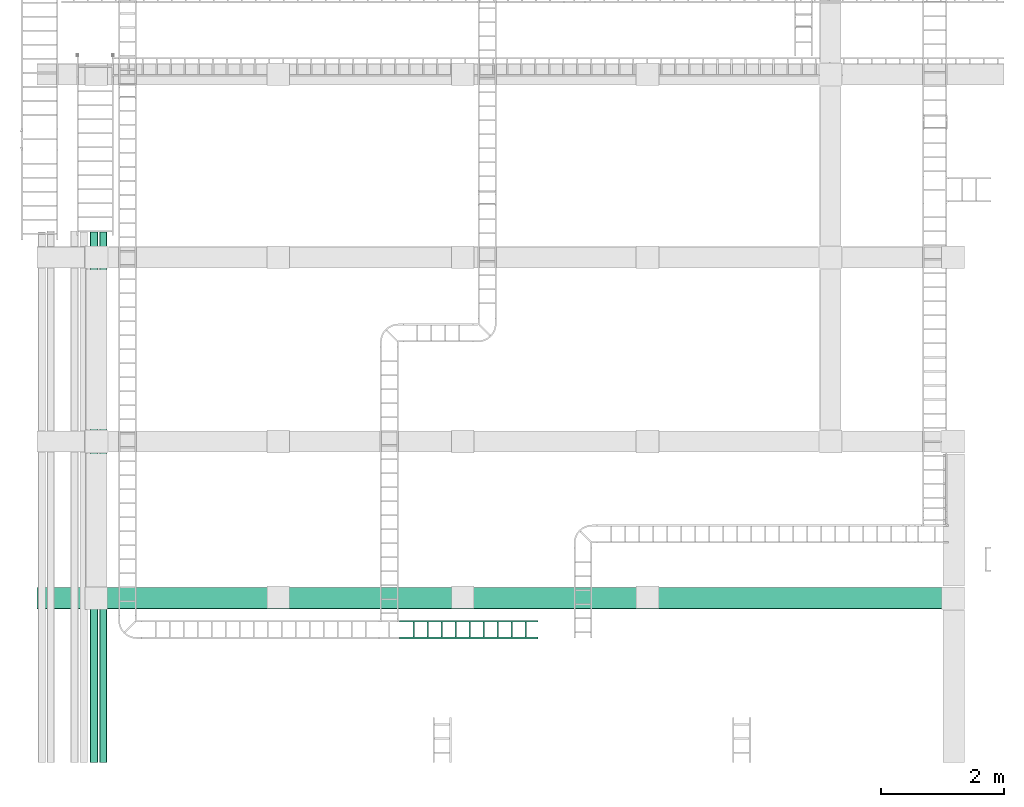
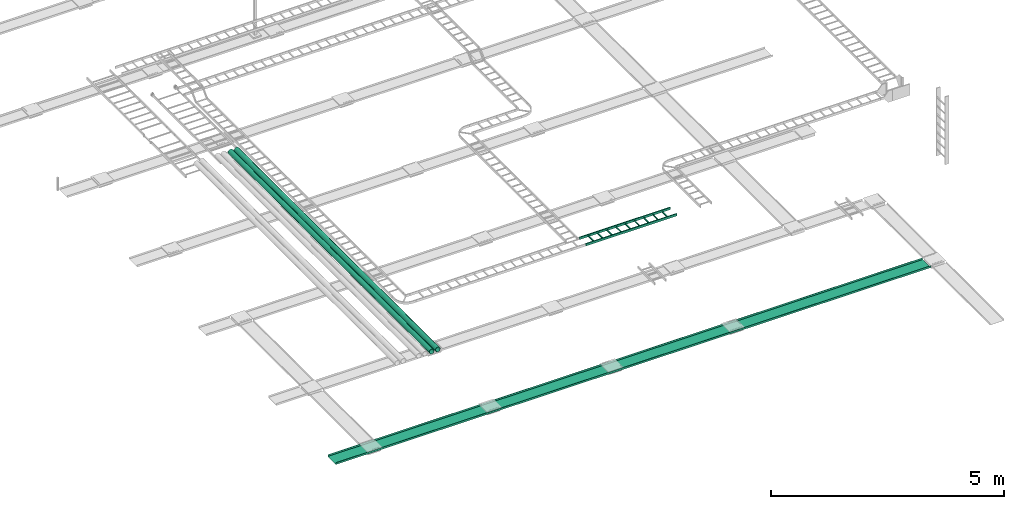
# One storey, part 5 of 16: 4 flow segments.
"""IFC2X3 building model written with IfcOpenShell, lengths in millimetres."""

from ifc_helpers import new_model, entity, si_unit, converted_unit, derived_unit, direction, frame, origin_with_axes, place, context, subcontext, project, spatial, open_shell, faceted_brep, surface_model, source, transform, mapped, type_object, element, save


model = new_model("IFC2X3")

# Units and contexts
model_context = context("Model", 3, precision=0.01, world=frame((0.0, 4.29681676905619e-09, 0.0)), true_north=direction((4.01073788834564e-13, 1.0)))
plan_context = context("Plan", 3, precision=0.01, world=frame((0.0, 4.29681676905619e-09, 0.0)), true_north=direction((4.01073788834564e-13, 1.0)))
body_context = subcontext(model_context, "Body", "Model", "MODEL_VIEW")
ifc_project = project(units=[converted_unit("PLANEANGLEUNIT", "DEGREE", entity("IfcPositiveLengthMeasure", 0.0174532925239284), si_unit("PLANEANGLEUNIT", "RADIAN"), dimensions=[0, 0, 0, 0, 0, 0, 0]), si_unit("AREAUNIT", "SQUARE_METRE"), si_unit("LENGTHUNIT", "METRE", prefix="MILLI"), si_unit("MASSUNIT", "GRAM", prefix="KILO"), si_unit("POWERUNIT", "WATT"), si_unit("PRESSUREUNIT", "PASCAL"), si_unit("FORCEUNIT", "NEWTON", prefix="KILO"), si_unit("ELECTRICVOLTAGEUNIT", "VOLT"), si_unit("ELECTRICCURRENTUNIT", "AMPERE"), si_unit("THERMODYNAMICTEMPERATUREUNIT", "DEGREE_CELSIUS"), si_unit("TIMEUNIT", "SECOND"), si_unit("VOLUMEUNIT", "CUBIC_METRE"), derived_unit("LINEARVELOCITYUNIT", [(si_unit("LENGTHUNIT", "METRE"), 1), (si_unit("TIMEUNIT", "SECOND"), -1)]), derived_unit("VOLUMETRICFLOWRATEUNIT", [(si_unit("VOLUMEUNIT", "CUBIC_METRE"), 1), (si_unit("TIMEUNIT", "SECOND"), -1)]), derived_unit("THERMALTRANSMITTANCEUNIT", [(si_unit("POWERUNIT", "WATT"), 1), (si_unit("THERMODYNAMICTEMPERATUREUNIT", "KELVIN"), -1), (si_unit("AREAUNIT", "SQUARE_METRE"), -1)]), derived_unit("SOUNDPRESSUREUNIT", [(si_unit("PRESSUREUNIT", "PASCAL"), 1)])], contexts=[model_context, plan_context])

# Site, building, storey
site_placement = place(None, frame((0.0, -4.29681676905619e-09, 0.0), z_axis=(0.0, 0.0, 1.0), x_axis=(1.0, 0.0, 0.0)))
site = spatial("IfcSite", under=ifc_project, at=site_placement, Name="ENGM", CompositionType="ELEMENT")
building_placement = place(site_placement, frame((0.0, 4.29681676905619e-09, 0.0), z_axis=(0.0, 0.0, 1.0), x_axis=(1.0, 0.0, 0.0)))
building = spatial("IfcBuilding", under=site, at=building_placement, Name="TS", CompositionType="ELEMENT")
storey_placement = place(building_placement, frame((0.0, 0.0, 210900.0), z_axis=(0.0, 0.0, 1.0), x_axis=(1.0, 0.0, 0.0)))
storey = spatial("IfcBuildingStorey", under=building, at=storey_placement, Name="Nivå F", CompositionType="ELEMENT", Elevation=210900.0)

# Flow segments
cable_carrier_segment_type_1 = type_object("IfcCableCarrierSegmentType", Name="Kabelbro", PredefinedType="CABLELADDERSEGMENT")
shared_shape = source(origin_with_axes(), body_context, "Body", "SurfaceModel", [
    surface_model("IfcShellBasedSurfaceModel", [(0.0, -124.6, -30.0), (0.0, -150.0, -30.0), (0.0, -150.0, 30.0), (0.0, -124.6, 30.0), (0.0, 150.0, -30.0), (0.0, 124.6, -30.0), (0.0, 124.6, 30.0), (0.0, 150.0, 30.0), (241.30001, -124.6, -30.0), (241.30001, -124.6, -4.6), (215.89999, -124.6, -4.6), (215.89999, -124.6, -30.0), (215.89999, 124.6, -4.6), (241.30001, 124.6, -4.6), (241.30001, 124.6, -30.0), (215.89999, 124.6, -30.0), (469.89999, -124.6, -30.0), (469.89999, -124.6, -4.6), (444.50001, -124.6, -4.6), (444.50001, -124.6, -30.0), (444.50001, 124.6, -4.6), (469.89999, 124.6, -4.6), (469.89999, 124.6, -30.0), (444.50001, 124.6, -30.0), (698.50002, -124.6, -30.0), (698.50002, -124.6, -4.6), (673.09998, -124.6, -4.6), (673.09998, -124.6, -30.0), (673.09998, 124.6, -4.6), (698.50002, 124.6, -4.6), (698.50002, 124.6, -30.0), (673.09998, 124.6, -30.0), (927.10002, -124.6, -30.0), (927.10002, -124.6, -4.6), (901.69998, -124.6, -4.6), (901.69998, -124.6, -30.0), (901.69998, 124.6, -4.6), (927.10002, 124.6, -4.6), (927.10002, 124.6, -30.0), (901.69998, 124.6, -30.0), (1155.70002, -124.6, -30.0), (1155.70002, -124.6, -4.6), (1130.29998, -124.6, -4.6), (1130.29998, -124.6, -30.0), (1130.29998, 124.6, -4.6), (1155.70002, 124.6, -4.6), (1155.70002, 124.6, -30.0), (1130.29998, 124.6, -30.0), (1384.29995, -124.6, -30.0), (1384.29995, -124.6, -4.6), (1358.90005, -124.6, -4.6), (1358.90005, -124.6, -30.0), (1358.90005, 124.6, -4.6), (1384.29995, 124.6, -4.6), (1384.29995, 124.6, -30.0), (1358.90005, 124.6, -30.0), (1612.89995, -124.6, -30.0), (1612.89995, -124.6, -4.6), (1587.50005, -124.6, -4.6), (1587.50005, -124.6, -30.0), (1587.50005, 124.6, -4.6), (1612.89995, 124.6, -4.6), (1612.89995, 124.6, -30.0), (1587.50005, 124.6, -30.0), (1841.49995, -124.6, -30.0), (1841.49995, -124.6, -4.6), (1816.10005, -124.6, -4.6), (1816.10005, -124.6, -30.0), (1816.10005, 124.6, -4.6), (1841.49995, 124.6, -4.6), (1841.49995, 124.6, -30.0), (1816.10005, 124.6, -30.0), (2070.09995, -124.6, -30.0), (2070.09995, -124.6, -4.6), (2044.70005, -124.6, -4.6), (2044.70005, -124.6, -30.0), (2044.70005, 124.6, -4.6), (2070.09995, 124.6, -4.6), (2070.09995, 124.6, -30.0), (2044.70005, 124.6, -30.0), (2259.99999, -150.0, 30.0), (2259.99999, -150.0, -30.0), (2259.99999, -124.6, -30.0), (2259.99999, -124.6, 30.0), (2259.99999, 124.6, 30.0), (2259.99999, 124.6, -30.0), (2259.99999, 150.0, -30.0), (2259.99999, 150.0, 30.0)], [open_shell([[[0, 1, 2]], [[2, 3, 0]], [[4, 5, 6]], [[6, 7, 4]], [[8, 9, 10]], [[10, 11, 8]], [[12, 13, 14]], [[14, 15, 12]], [[9, 8, 14]], [[14, 13, 9]], [[10, 9, 12]], [[13, 12, 9]], [[11, 10, 12]], [[12, 15, 11]], [[8, 11, 14]], [[15, 14, 11]], [[16, 17, 18]], [[18, 19, 16]], [[20, 21, 22]], [[22, 23, 20]], [[17, 16, 22]], [[22, 21, 17]], [[18, 17, 20]], [[21, 20, 17]], [[19, 18, 20]], [[20, 23, 19]], [[16, 19, 22]], [[23, 22, 19]], [[24, 25, 26]], [[26, 27, 24]], [[28, 29, 30]], [[30, 31, 28]], [[25, 24, 30]], [[30, 29, 25]], [[26, 25, 28]], [[29, 28, 25]], [[27, 26, 28]], [[28, 31, 27]], [[24, 27, 30]], [[31, 30, 27]], [[32, 33, 34]], [[34, 35, 32]], [[36, 37, 38]], [[38, 39, 36]], [[33, 32, 38]], [[38, 37, 33]], [[34, 33, 36]], [[37, 36, 33]], [[35, 34, 36]], [[36, 39, 35]], [[32, 35, 38]], [[39, 38, 35]], [[40, 41, 42]], [[42, 43, 40]], [[44, 45, 46]], [[46, 47, 44]], [[41, 40, 46]], [[46, 45, 41]], [[42, 41, 44]], [[45, 44, 41]], [[43, 42, 44]], [[44, 47, 43]], [[40, 43, 46]], [[47, 46, 43]], [[48, 49, 50]], [[50, 51, 48]], [[52, 53, 54]], [[54, 55, 52]], [[49, 48, 54]], [[54, 53, 49]], [[50, 49, 52]], [[53, 52, 49]], [[51, 50, 52]], [[52, 55, 51]], [[48, 51, 54]], [[55, 54, 51]], [[56, 57, 58]], [[58, 59, 56]], [[60, 61, 62]], [[62, 63, 60]], [[57, 56, 62]], [[62, 61, 57]], [[58, 57, 60]], [[61, 60, 57]], [[59, 58, 60]], [[60, 63, 59]], [[56, 59, 62]], [[63, 62, 59]], [[64, 65, 66]], [[66, 67, 64]], [[68, 69, 70]], [[70, 71, 68]], [[65, 64, 70]], [[70, 69, 65]], [[66, 65, 68]], [[69, 68, 65]], [[67, 66, 68]], [[68, 71, 67]], [[64, 67, 70]], [[71, 70, 67]], [[72, 73, 74]], [[74, 75, 72]], [[76, 77, 78]], [[78, 79, 76]], [[73, 72, 78]], [[78, 77, 73]], [[74, 73, 76]], [[77, 76, 73]], [[75, 74, 76]], [[76, 79, 75]], [[72, 75, 78]], [[79, 78, 75]], [[80, 81, 82]], [[82, 83, 80]], [[84, 85, 86]], [[86, 87, 84]], [[2, 1, 80]], [[81, 80, 1]], [[3, 2, 80]], [[80, 83, 3]], [[0, 3, 82]], [[83, 82, 3]], [[1, 0, 82]], [[82, 81, 1]], [[4, 7, 86]], [[87, 86, 7]], [[5, 4, 86]], [[86, 85, 5]], [[6, 5, 84]], [[85, 84, 5]], [[7, 6, 84]], [[84, 87, 7]]])]),
])
flow_segment_1_placement = place(storey_placement, frame((526462.55901, 442941.94453, 3925.0), z_axis=(0.0, 0.0, 1.0), x_axis=(1.0, 0.0, 0.0)))
element("IfcFlowSegment", 1, at=flow_segment_1_placement, inside=storey, type_object=cable_carrier_segment_type_1, Name="Kabelbro", context=body_context, shape_type="MappedRepresentation", body=[
    mapped(shared_shape, transform((0.0, 0.0, 0.0), scale=1.0)),
])
cable_carrier_segment_type_2 = type_object("IfcCableCarrierSegmentType", Name="Conduit", PredefinedType="CONDUITSEGMENT")
flow_segment_2_placement = place(storey_placement, frame((521475.24654, 434553.63765, 4100.0), z_axis=(0.0, 0.0, 1.0), x_axis=(0.0, 1.0, 0.0)))
element("IfcFlowSegment", 2, at=flow_segment_2_placement, inside=storey, type_object=cable_carrier_segment_type_2, Name="Conduit", context=body_context, shape_type="Brep", body=[
    faceted_brep([(6221.36234999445, 59.5808690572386, -10.5057147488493), (6221.36234999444, 60.5, 0.0), (14871.9, 60.5, 0.0), (14871.9, 59.5808690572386, -10.5057147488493), (6221.36234999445, 56.8514035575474, -20.692218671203), (14871.9, 56.8514035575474, -20.692218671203), (6221.36234999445, 52.3945369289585, -30.25), (14871.9, 52.3945369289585, -30.25), (6221.36234999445, 46.3456888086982, -38.8886503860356), (14871.9, 46.3456888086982, -38.8886503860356), (6221.36234999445, 38.8886503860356, -46.3456888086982), (14871.9, 38.8886503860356, -46.3456888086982), (6221.36234999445, 30.25, -52.3945369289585), (14871.9, 30.25, -52.3945369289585), (6221.36234999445, 20.6922186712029, -56.8514035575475), (14871.9, 20.6922186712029, -56.8514035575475), (6221.36234999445, 10.5057147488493, -59.5808690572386), (14871.9, 10.5057147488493, -59.5808690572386), (6221.36234999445, -1.11136697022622e-14, -60.5), (14871.9, -1.11136697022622e-14, -60.5), (6221.36234999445, -10.5057147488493, -59.5808690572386), (14871.9, -10.5057147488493, -59.5808690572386), (6221.36234999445, -20.692218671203, -56.8514035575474), (14871.9, -20.692218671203, -56.8514035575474), (6221.36234999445, -30.25, -52.3945369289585), (14871.9, -30.25, -52.3945369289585), (6221.36234999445, -38.8886503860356, -46.3456888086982), (14871.9, -38.8886503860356, -46.3456888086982), (6221.36234999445, -46.3456888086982, -38.8886503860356), (14871.9, -46.3456888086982, -38.8886503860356), (6221.36234999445, -52.3945369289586, -30.25), (14871.9, -52.3945369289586, -30.25), (6221.36234999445, -56.8514035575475, -20.692218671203), (14871.9, -56.8514035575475, -20.692218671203), (6221.36234999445, -59.5808690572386, -10.5057147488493), (14871.9, -59.5808690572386, -10.5057147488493), (6221.36234999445, -60.5, 7.40911313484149e-15), (14871.9, -60.5, 7.40911313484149e-15), (6221.36234999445, -59.5808690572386, 10.5057147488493), (14871.9, -59.5808690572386, 10.5057147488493), (6221.36234999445, -56.8514035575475, 20.692218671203), (14871.9, -56.8514035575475, 20.692218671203), (6221.36234999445, -52.3945369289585, 30.25), (14871.9, -52.3945369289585, 30.25), (6221.36234999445, -46.3456888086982, 38.8886503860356), (14871.9, -46.3456888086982, 38.8886503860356), (6221.36234999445, -38.8886503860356, 46.3456888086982), (14871.9, -38.8886503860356, 46.3456888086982), (6221.36234999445, -30.25, 52.3945369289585), (14871.9, -30.25, 52.3945369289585), (6221.36234999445, -20.692218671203, 56.8514035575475), (14871.9, -20.692218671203, 56.8514035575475), (6221.36234999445, -10.5057147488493, 59.5808690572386), (14871.9, -10.5057147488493, 59.5808690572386), (6221.36234999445, 3.70455656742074e-15, 60.5), (14871.9, 3.70455656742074e-15, 60.5), (6221.36234999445, 10.5057147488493, 59.5808690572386), (14871.9, 10.5057147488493, 59.5808690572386), (6221.36234999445, 20.692218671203, 56.8514035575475), (14871.9, 20.692218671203, 56.8514035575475), (6221.36234999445, 30.25, 52.3945369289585), (14871.9, 30.25, 52.3945369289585), (6221.36234999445, 38.8886503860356, 46.3456888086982), (14871.9, 38.8886503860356, 46.3456888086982), (6221.36234999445, 46.3456888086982, 38.8886503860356), (14871.9, 46.3456888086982, 38.8886503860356), (6221.36234999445, 52.3945369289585, 30.25), (14871.9, 52.3945369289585, 30.25), (6221.36234999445, 56.8514035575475, 20.692218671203), (14871.9, 56.8514035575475, 20.692218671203), (6221.36234999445, 59.5808690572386, 10.5057147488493), (14871.9, 59.5808690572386, 10.5057147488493), (6221.36234999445, 62.5, 0.0), (6221.36234999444, 61.550484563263, -10.8530111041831), (14871.9, 61.550484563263, -10.8530111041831), (14871.9, 62.5, 0.0), (6221.36234999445, 61.550484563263, 10.8530111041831), (14871.9, 61.550484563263, 10.8530111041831), (6221.36234999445, 58.7307887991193, 21.3762589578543), (14871.9, 58.7307887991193, 21.3762589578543), (6221.36234999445, 54.1265877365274, 31.25), (14871.9, 54.1265877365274, 31.25), (6221.36234999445, 47.8777776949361, 40.1742256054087), (14871.9, 47.8777776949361, 40.1742256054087), (6221.36234999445, 40.1742256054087, 47.8777776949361), (14871.9, 40.1742256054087, 47.8777776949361), (6221.36234999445, 31.25, 54.1265877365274), (14871.9, 31.25, 54.1265877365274), (6221.36234999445, 21.3762589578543, 58.7307887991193), (14871.9, 21.3762589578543, 58.7307887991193), (6221.36234999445, 10.8530111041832, 61.550484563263), (14871.9, 10.8530111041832, 61.550484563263), (6221.36234999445, 3.82702124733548e-15, 62.5), (14871.9, 3.82702124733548e-15, 62.5), (6221.36234999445, -10.8530111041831, 61.550484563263), (14871.9, -10.8530111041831, 61.550484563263), (6221.36234999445, -21.3762589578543, 58.7307887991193), (14871.9, -21.3762589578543, 58.7307887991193), (6221.36234999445, -31.25, 54.1265877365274), (14871.9, -31.25, 54.1265877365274), (6221.36234999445, -40.1742256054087, 47.8777776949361), (14871.9, -40.1742256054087, 47.8777776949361), (6221.36234999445, -47.8777776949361, 40.1742256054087), (14871.9, -47.8777776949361, 40.1742256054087), (6221.36234999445, -54.1265877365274, 31.25), (14871.9, -54.1265877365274, 31.25), (6221.36234999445, -58.7307887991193, 21.3762589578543), (14871.9, -58.7307887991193, 21.3762589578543), (6221.36234999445, -61.550484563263, 10.8530111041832), (14871.9, -61.550484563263, 10.8530111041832), (6221.36234999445, -62.5, 7.65404249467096e-15), (14871.9, -62.5, 7.65404249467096e-15), (6221.36234999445, -61.550484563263, -10.8530111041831), (14871.9, -61.550484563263, -10.8530111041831), (6221.36234999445, -58.7307887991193, -21.3762589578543), (14871.9, -58.7307887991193, -21.3762589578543), (6221.36234999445, -54.1265877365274, -31.25), (14871.9, -54.1265877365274, -31.25), (6221.36234999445, -47.8777776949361, -40.1742256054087), (14871.9, -47.8777776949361, -40.1742256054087), (6221.36234999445, -40.1742256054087, -47.8777776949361), (14871.9, -40.1742256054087, -47.8777776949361), (6221.36234999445, -31.25, -54.1265877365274), (14871.9, -31.25, -54.1265877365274), (6221.36234999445, -21.3762589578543, -58.7307887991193), (14871.9, -21.3762589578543, -58.7307887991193), (6221.36234999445, -10.8530111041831, -61.550484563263), (14871.9, -10.8530111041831, -61.550484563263), (6221.36234999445, -1.14810637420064e-14, -62.5), (14871.9, -1.14810637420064e-14, -62.5), (6221.36234999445, 10.8530111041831, -61.550484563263), (14871.9, 10.8530111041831, -61.550484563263), (6221.36234999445, 21.3762589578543, -58.7307887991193), (14871.9, 21.3762589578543, -58.7307887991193), (6221.36234999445, 31.25, -54.1265877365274), (14871.9, 31.25, -54.1265877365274), (6221.36234999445, 40.1742256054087, -47.8777776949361), (14871.9, 40.1742256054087, -47.8777776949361), (6221.36234999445, 47.8777776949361, -40.1742256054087), (14871.9, 47.8777776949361, -40.1742256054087), (6221.36234999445, 54.1265877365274, -31.25), (14871.9, 54.1265877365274, -31.25), (6221.36234999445, 58.7307887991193, -21.3762589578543), (14871.9, 58.7307887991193, -21.3762589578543)], [[[0, 1, 2, 3]], [[4, 0, 3, 5]], [[6, 4, 5, 7]], [[8, 6, 7, 9]], [[10, 8, 9, 11]], [[12, 10, 11, 13]], [[14, 12, 13, 15]], [[16, 14, 15, 17]], [[18, 16, 17, 19]], [[20, 18, 19, 21]], [[22, 20, 21, 23]], [[24, 22, 23, 25]], [[26, 24, 25, 27]], [[28, 26, 27, 29]], [[30, 28, 29, 31]], [[32, 30, 31, 33]], [[34, 32, 33, 35]], [[36, 34, 35, 37]], [[38, 36, 37, 39]], [[40, 38, 39, 41]], [[42, 40, 41, 43]], [[44, 42, 43, 45]], [[46, 44, 45, 47]], [[48, 46, 47, 49]], [[50, 48, 49, 51]], [[52, 50, 51, 53]], [[54, 52, 53, 55]], [[56, 54, 55, 57]], [[58, 56, 57, 59]], [[60, 58, 59, 61]], [[62, 60, 61, 63]], [[64, 62, 63, 65]], [[66, 64, 65, 67]], [[68, 66, 67, 69]], [[70, 68, 69, 71]], [[1, 70, 71, 2]], [[72, 73, 74, 75]], [[76, 72, 75, 77]], [[78, 76, 77, 79]], [[80, 78, 79, 81]], [[82, 80, 81, 83]], [[84, 82, 83, 85]], [[86, 84, 85, 87]], [[88, 86, 87, 89]], [[90, 88, 89, 91]], [[92, 90, 91, 93]], [[94, 92, 93, 95]], [[96, 94, 95, 97]], [[98, 96, 97, 99]], [[100, 98, 99, 101]], [[102, 100, 101, 103]], [[104, 102, 103, 105]], [[106, 104, 105, 107]], [[108, 106, 107, 109]], [[110, 108, 109, 111]], [[112, 110, 111, 113]], [[114, 112, 113, 115]], [[116, 114, 115, 117]], [[118, 116, 117, 119]], [[120, 118, 119, 121]], [[122, 120, 121, 123]], [[124, 122, 123, 125]], [[126, 124, 125, 127]], [[128, 126, 127, 129]], [[130, 128, 129, 131]], [[132, 130, 131, 133]], [[134, 132, 133, 135]], [[136, 134, 135, 137]], [[138, 136, 137, 139]], [[140, 138, 139, 141]], [[142, 140, 141, 143]], [[73, 142, 143, 74]], [[75, 74, 143, 141, 139, 137, 135, 133, 131, 129, 127, 125, 123, 121, 119, 117, 115, 113, 111, 109, 107, 105, 103, 101, 99, 97, 95, 93, 91, 89, 87, 85, 83, 81, 79, 77], [2, 71, 69, 67, 65, 63, 61, 59, 57, 55, 53, 51, 49, 47, 45, 43, 41, 39, 37, 35, 33, 31, 29, 27, 25, 23, 21, 19, 17, 15, 13, 11, 9, 7, 5, 3]], [[76, 78, 80, 82, 84, 86, 88, 90, 92, 94, 96, 98, 100, 102, 104, 106, 108, 110, 112, 114, 116, 118, 120, 122, 124, 126, 128, 130, 132, 134, 136, 138, 140, 142, 73, 72], [4, 6, 8, 10, 12, 14, 16, 18, 20, 22, 24, 26, 28, 30, 32, 34, 36, 38, 40, 42, 44, 46, 48, 50, 52, 54, 56, 58, 60, 62, 64, 66, 68, 70, 1, 0]]], orient=[[False], [False], [False], [False], [False], [False], [False], [False], [False], [False], [False], [False], [False], [False], [False], [False], [False], [False], [False], [False], [False], [False], [False], [False], [False], [False], [False], [False], [False], [False], [False], [False], [False], [False], [False], [False], [False], [False], [False], [False], [False], [False], [False], [False], [False], [False], [False], [False], [False], [False], [False], [False], [False], [False], [False], [False], [False], [False], [False], [False], [False], [False], [False], [False], [False], [False], [False], [False], [False], [False], [False], [False], [False, False], [False, False]]),
])
flow_segment_3_placement = place(storey_placement, frame((521625.22808, 434394.86235, 4100.0), z_axis=(0.0, 0.0, 1.0), x_axis=(0.0, 1.0, 0.0)))
element("IfcFlowSegment", 3, at=flow_segment_3_placement, inside=storey, type_object=cable_carrier_segment_type_2, Name="Conduit", context=body_context, shape_type="Brep", body=[
    faceted_brep([(6380.13764999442, 59.5808690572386, -10.5057147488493), (6380.13764999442, 60.5, 0.0), (15030.7, 60.5, 0.0), (15030.7, 59.5808690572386, -10.5057147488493), (6380.13764999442, 56.8514035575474, -20.692218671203), (15030.7, 56.8514035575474, -20.692218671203), (6380.13764999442, 52.3945369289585, -30.25), (15030.7, 52.3945369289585, -30.25), (6380.13764999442, 46.3456888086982, -38.8886503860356), (15030.7, 46.3456888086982, -38.8886503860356), (6380.13764999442, 38.8886503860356, -46.3456888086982), (15030.7, 38.8886503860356, -46.3456888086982), (6380.13764999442, 30.25, -52.3945369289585), (15030.7, 30.25, -52.3945369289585), (6380.13764999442, 20.6922186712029, -56.8514035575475), (15030.7, 20.6922186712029, -56.8514035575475), (6380.13764999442, 10.5057147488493, -59.5808690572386), (15030.7, 10.5057147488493, -59.5808690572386), (6380.13764999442, -1.11136697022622e-14, -60.5), (15030.7, -1.11136697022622e-14, -60.5), (6380.13764999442, -10.5057147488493, -59.5808690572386), (15030.7, -10.5057147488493, -59.5808690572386), (6380.13764999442, -20.692218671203, -56.8514035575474), (15030.7, -20.692218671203, -56.8514035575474), (6380.13764999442, -30.25, -52.3945369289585), (15030.7, -30.25, -52.3945369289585), (6380.13764999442, -38.8886503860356, -46.3456888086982), (15030.7, -38.8886503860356, -46.3456888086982), (6380.13764999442, -46.3456888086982, -38.8886503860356), (15030.7, -46.3456888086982, -38.8886503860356), (6380.13764999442, -52.3945369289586, -30.25), (15030.7, -52.3945369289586, -30.25), (6380.13764999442, -56.8514035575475, -20.692218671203), (15030.7, -56.8514035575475, -20.692218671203), (6380.13764999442, -59.5808690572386, -10.5057147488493), (15030.7, -59.5808690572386, -10.5057147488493), (6380.13764999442, -60.5, 7.40911313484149e-15), (15030.7, -60.5, 7.40911313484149e-15), (6380.13764999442, -59.5808690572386, 10.5057147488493), (15030.7, -59.5808690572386, 10.5057147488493), (6380.13764999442, -56.8514035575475, 20.692218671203), (15030.7, -56.8514035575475, 20.692218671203), (6380.13764999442, -52.3945369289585, 30.25), (15030.7, -52.3945369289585, 30.25), (6380.13764999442, -46.3456888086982, 38.8886503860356), (15030.7, -46.3456888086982, 38.8886503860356), (6380.13764999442, -38.8886503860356, 46.3456888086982), (15030.7, -38.8886503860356, 46.3456888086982), (6380.13764999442, -30.25, 52.3945369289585), (15030.7, -30.25, 52.3945369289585), (6380.13764999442, -20.692218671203, 56.8514035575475), (15030.7, -20.692218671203, 56.8514035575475), (6380.13764999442, -10.5057147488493, 59.5808690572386), (15030.7, -10.5057147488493, 59.5808690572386), (6380.13764999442, 3.70455656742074e-15, 60.5), (15030.7, 3.70455656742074e-15, 60.5), (6380.13764999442, 10.5057147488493, 59.5808690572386), (15030.7, 10.5057147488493, 59.5808690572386), (6380.13764999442, 20.692218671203, 56.8514035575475), (15030.7, 20.692218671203, 56.8514035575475), (6380.13764999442, 30.25, 52.3945369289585), (15030.7, 30.25, 52.3945369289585), (6380.13764999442, 38.8886503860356, 46.3456888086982), (15030.7, 38.8886503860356, 46.3456888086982), (6380.13764999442, 46.3456888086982, 38.8886503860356), (15030.7, 46.3456888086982, 38.8886503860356), (6380.13764999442, 52.3945369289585, 30.25), (15030.7, 52.3945369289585, 30.25), (6380.13764999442, 56.8514035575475, 20.692218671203), (15030.7, 56.8514035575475, 20.692218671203), (6380.13764999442, 59.5808690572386, 10.5057147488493), (15030.7, 59.5808690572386, 10.5057147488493), (6380.13764999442, 62.5, 0.0), (6380.13764999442, 61.550484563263, -10.8530111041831), (15030.7, 61.550484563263, -10.8530111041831), (15030.7, 62.5, 0.0), (6380.13764999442, 61.550484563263, 10.8530111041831), (15030.7, 61.550484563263, 10.8530111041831), (6380.13764999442, 58.7307887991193, 21.3762589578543), (15030.7, 58.7307887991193, 21.3762589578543), (6380.13764999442, 54.1265877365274, 31.25), (15030.7, 54.1265877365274, 31.25), (6380.13764999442, 47.8777776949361, 40.1742256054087), (15030.7, 47.8777776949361, 40.1742256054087), (6380.13764999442, 40.1742256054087, 47.8777776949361), (15030.7, 40.1742256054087, 47.8777776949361), (6380.13764999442, 31.25, 54.1265877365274), (15030.7, 31.25, 54.1265877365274), (6380.13764999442, 21.3762589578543, 58.7307887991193), (15030.7, 21.3762589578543, 58.7307887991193), (6380.13764999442, 10.8530111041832, 61.550484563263), (15030.7, 10.8530111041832, 61.550484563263), (6380.13764999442, 3.82702124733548e-15, 62.5), (15030.7, 3.82702124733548e-15, 62.5), (6380.13764999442, -10.8530111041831, 61.550484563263), (15030.7, -10.8530111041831, 61.550484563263), (6380.13764999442, -21.3762589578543, 58.7307887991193), (15030.7, -21.3762589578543, 58.7307887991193), (6380.13764999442, -31.25, 54.1265877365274), (15030.7, -31.25, 54.1265877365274), (6380.13764999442, -40.1742256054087, 47.8777776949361), (15030.7, -40.1742256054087, 47.8777776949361), (6380.13764999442, -47.8777776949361, 40.1742256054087), (15030.7, -47.8777776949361, 40.1742256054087), (6380.13764999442, -54.1265877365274, 31.25), (15030.7, -54.1265877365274, 31.25), (6380.13764999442, -58.7307887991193, 21.3762589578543), (15030.7, -58.7307887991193, 21.3762589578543), (6380.13764999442, -61.550484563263, 10.8530111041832), (15030.7, -61.550484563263, 10.8530111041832), (6380.13764999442, -62.5, 7.65404249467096e-15), (15030.7, -62.5, 7.65404249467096e-15), (6380.13764999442, -61.550484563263, -10.8530111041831), (15030.7, -61.550484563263, -10.8530111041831), (6380.13764999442, -58.7307887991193, -21.3762589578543), (15030.7, -58.7307887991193, -21.3762589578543), (6380.13764999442, -54.1265877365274, -31.25), (15030.7, -54.1265877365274, -31.25), (6380.13764999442, -47.8777776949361, -40.1742256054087), (15030.7, -47.8777776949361, -40.1742256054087), (6380.13764999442, -40.1742256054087, -47.8777776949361), (15030.7, -40.1742256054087, -47.8777776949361), (6380.13764999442, -31.25, -54.1265877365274), (15030.7, -31.25, -54.1265877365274), (6380.13764999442, -21.3762589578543, -58.7307887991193), (15030.7, -21.3762589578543, -58.7307887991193), (6380.13764999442, -10.8530111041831, -61.550484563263), (15030.7, -10.8530111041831, -61.550484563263), (6380.13764999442, -1.14810637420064e-14, -62.5), (15030.7, -1.14810637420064e-14, -62.5), (6380.13764999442, 10.8530111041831, -61.550484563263), (15030.7, 10.8530111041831, -61.550484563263), (6380.13764999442, 21.3762589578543, -58.7307887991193), (15030.7, 21.3762589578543, -58.7307887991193), (6380.13764999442, 31.25, -54.1265877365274), (15030.7, 31.25, -54.1265877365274), (6380.13764999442, 40.1742256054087, -47.8777776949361), (15030.7, 40.1742256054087, -47.8777776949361), (6380.13764999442, 47.8777776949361, -40.1742256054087), (15030.7, 47.8777776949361, -40.1742256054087), (6380.13764999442, 54.1265877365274, -31.25), (15030.7, 54.1265877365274, -31.25), (6380.13764999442, 58.7307887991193, -21.3762589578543), (15030.7, 58.7307887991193, -21.3762589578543)], [[[0, 1, 2, 3]], [[4, 0, 3, 5]], [[6, 4, 5, 7]], [[8, 6, 7, 9]], [[10, 8, 9, 11]], [[12, 10, 11, 13]], [[14, 12, 13, 15]], [[16, 14, 15, 17]], [[18, 16, 17, 19]], [[20, 18, 19, 21]], [[22, 20, 21, 23]], [[24, 22, 23, 25]], [[26, 24, 25, 27]], [[28, 26, 27, 29]], [[30, 28, 29, 31]], [[32, 30, 31, 33]], [[34, 32, 33, 35]], [[36, 34, 35, 37]], [[38, 36, 37, 39]], [[40, 38, 39, 41]], [[42, 40, 41, 43]], [[44, 42, 43, 45]], [[46, 44, 45, 47]], [[48, 46, 47, 49]], [[50, 48, 49, 51]], [[52, 50, 51, 53]], [[54, 52, 53, 55]], [[56, 54, 55, 57]], [[58, 56, 57, 59]], [[60, 58, 59, 61]], [[62, 60, 61, 63]], [[64, 62, 63, 65]], [[66, 64, 65, 67]], [[68, 66, 67, 69]], [[70, 68, 69, 71]], [[1, 70, 71, 2]], [[72, 73, 74, 75]], [[76, 72, 75, 77]], [[78, 76, 77, 79]], [[80, 78, 79, 81]], [[82, 80, 81, 83]], [[84, 82, 83, 85]], [[86, 84, 85, 87]], [[88, 86, 87, 89]], [[90, 88, 89, 91]], [[92, 90, 91, 93]], [[94, 92, 93, 95]], [[96, 94, 95, 97]], [[98, 96, 97, 99]], [[100, 98, 99, 101]], [[102, 100, 101, 103]], [[104, 102, 103, 105]], [[106, 104, 105, 107]], [[108, 106, 107, 109]], [[110, 108, 109, 111]], [[112, 110, 111, 113]], [[114, 112, 113, 115]], [[116, 114, 115, 117]], [[118, 116, 117, 119]], [[120, 118, 119, 121]], [[122, 120, 121, 123]], [[124, 122, 123, 125]], [[126, 124, 125, 127]], [[128, 126, 127, 129]], [[130, 128, 129, 131]], [[132, 130, 131, 133]], [[134, 132, 133, 135]], [[136, 134, 135, 137]], [[138, 136, 137, 139]], [[140, 138, 139, 141]], [[142, 140, 141, 143]], [[73, 142, 143, 74]], [[75, 74, 143, 141, 139, 137, 135, 133, 131, 129, 127, 125, 123, 121, 119, 117, 115, 113, 111, 109, 107, 105, 103, 101, 99, 97, 95, 93, 91, 89, 87, 85, 83, 81, 79, 77], [2, 71, 69, 67, 65, 63, 61, 59, 57, 55, 53, 51, 49, 47, 45, 43, 41, 39, 37, 35, 33, 31, 29, 27, 25, 23, 21, 19, 17, 15, 13, 11, 9, 7, 5, 3]], [[76, 78, 80, 82, 84, 86, 88, 90, 92, 94, 96, 98, 100, 102, 104, 106, 108, 110, 112, 114, 116, 118, 120, 122, 124, 126, 128, 130, 132, 134, 136, 138, 140, 142, 73, 72], [4, 6, 8, 10, 12, 14, 16, 18, 20, 22, 24, 26, 28, 30, 32, 34, 36, 38, 40, 42, 44, 46, 48, 50, 52, 54, 56, 58, 60, 62, 64, 66, 68, 70, 1, 0]]], orient=[[False], [False], [False], [False], [False], [False], [False], [False], [False], [False], [False], [False], [False], [False], [False], [False], [False], [False], [False], [False], [False], [False], [False], [False], [False], [False], [False], [False], [False], [False], [False], [False], [False], [False], [False], [False], [False], [False], [False], [False], [False], [False], [False], [False], [False], [False], [False], [False], [False], [False], [False], [False], [False], [False], [False], [False], [False], [False], [False], [False], [False], [False], [False], [False], [False], [False], [False], [False], [False], [False], [False], [False], [False, False], [False, False]]),
])
cable_carrier_segment_type_3 = type_object("IfcCableCarrierSegmentType", Name="Kabelbane", PredefinedType="CABLETRAYSEGMENT")
flow_segment_4_placement = place(storey_placement, frame((519679.74652, 443454.42977, -35.0), z_axis=(0.0, 0.0, 1.0), x_axis=(1.0, 0.0, 0.0)))
element("IfcFlowSegment", 4, at=flow_segment_4_placement, inside=storey, type_object=cable_carrier_segment_type_3, Name="Kabelbane", context=body_context, shape_type="Brep", body=[
    faceted_brep([(15625.55089, -175.0, 25.0), (15625.55089, -172.46, -22.46), (15625.55089, -175.0, -25.0), (15625.55089, -172.46, 25.0), (15625.55089, 175.0, -25.0), (15625.55089, 172.46, -22.46), (15625.55089, 175.0, 25.0), (15625.55089, 172.46, 25.0), (865.240980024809, -175.0, -22.2313264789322), (865.24098002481, -175.0, 25.0), (865.240980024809, -175.0, -25.0), (865.24098002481, -172.60064861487, 25.0), (865.24098002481, -172.46, 25.0), (865.240980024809, -172.46, 22.3719750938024), (865.24098002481, -172.46, -22.46), (865.240980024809, -153.360582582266, -22.46), (865.24098002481, 172.46, -22.46), (865.240980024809, 172.46, -19.8319750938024), (865.24098002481, 172.46, 25.0), (865.24098002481, 174.85935138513, 25.0), (865.24098002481, 175.0, 25.0), (865.240980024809, 175.0, 22.2313264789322), (865.24098002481, 175.0, -25.0), (865.24098002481, -155.619285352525, -25.0)], [[[0, 1, 2]], [[1, 0, 3]], [[4, 2, 1]], [[1, 5, 4]], [[6, 4, 5]], [[5, 7, 6]], [[8, 9, 0]], [[10, 8, 0, 2]], [[9, 11, 0]], [[11, 12, 3, 0]], [[13, 14, 1]], [[12, 13, 1, 3]], [[15, 16, 5]], [[14, 15, 5, 1]], [[17, 18, 7]], [[16, 17, 7, 5]], [[18, 19, 7]], [[19, 20, 6, 7]], [[21, 22, 4]], [[20, 21, 4, 6]], [[22, 23, 4]], [[23, 10, 2, 4]], [[10, 23, 22, 21, 20, 19, 18, 17, 16, 15, 14, 13, 12, 11, 9, 8]]], orient=[[False], [False], [False], [False], [False], [False], [False], [False], [False], [False], [False], [False], [False], [False], [False], [False], [False], [False], [False], [False], [False], [False], [False]]),
])

save(model, "model.ifc")
